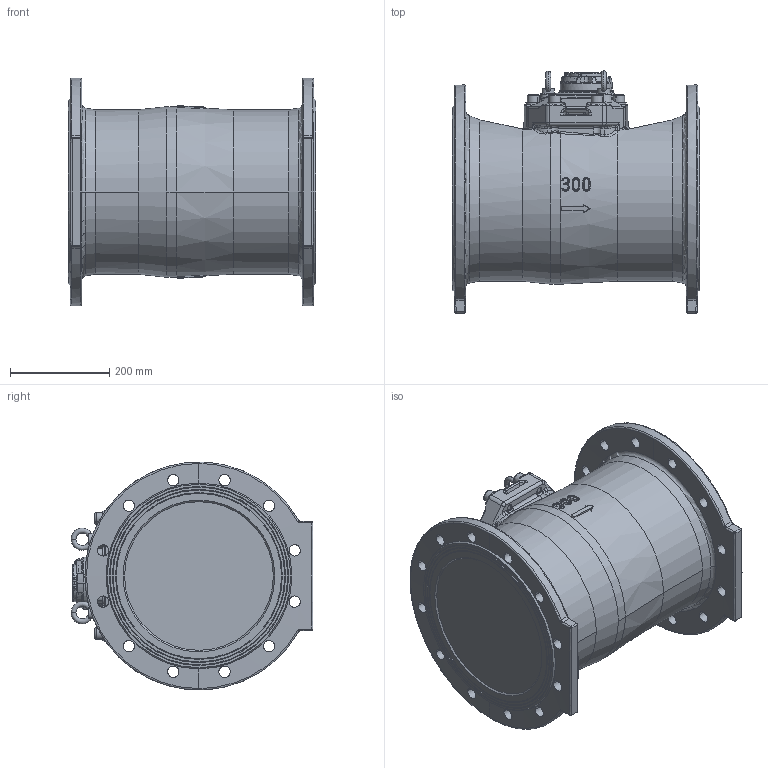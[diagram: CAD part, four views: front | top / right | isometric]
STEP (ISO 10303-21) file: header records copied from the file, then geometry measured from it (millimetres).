
FILE_DESCRIPTION (( 'STEP AP214' ), '1' );
FILE_NAME ('MWN300 IP65 NKO.STEP', '2025-07-09T14:00:20', ( '' ), ( '' ), 'SwSTEP 2.0', 'SolidWorks 2019', '' );
FILE_SCHEMA (( 'AUTOMOTIVE_DESIGN' ));
Length unit declared in the file: millimetre
Products named in the file (1): MWN300 IP65 NKO
Bounding box: 500 x 488 x 459.64 mm (x, y, z)
Volume: 57127041.3 mm3; surface area: 2608438.2 mm2
Topology: 20 solids, 44 shells, 1767 faces, 4448 edges, 2753 vertices
Faces by surface type: plane 560, cylinder 485, bspline 332, cone 237, torus 114, sphere 39
Entity records: 112776 total; most frequent: CARTESIAN_POINT 54470, ORIENTED_EDGE 8702, DIRECTION 7243, EDGE_CURVE 4351, AXIS2_PLACEMENT_3D 2770, VERTEX_POINT 2746, EDGE_LOOP 1945, ADVANCED_FACE 1767
